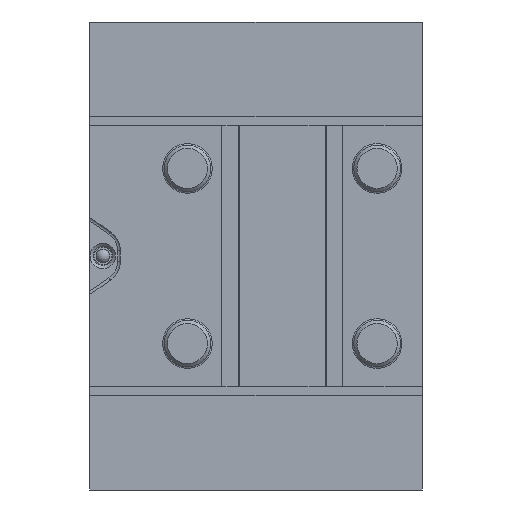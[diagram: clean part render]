
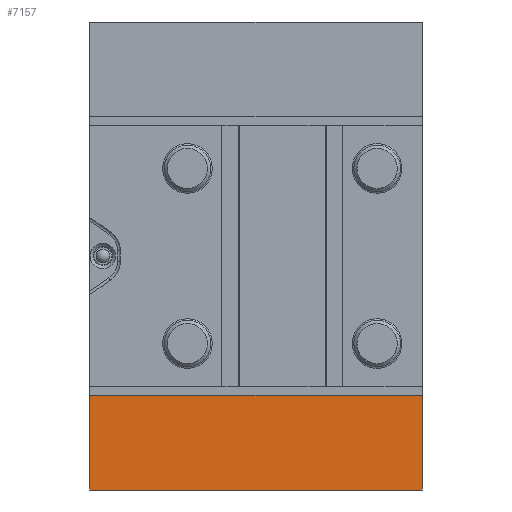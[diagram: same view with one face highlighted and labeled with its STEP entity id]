
A CAD part, front view. The second image highlights one B-rep face of the part: STEP entity #7157.
In plain terms, the highlighted planar face has unit normal (0, -1, 0).
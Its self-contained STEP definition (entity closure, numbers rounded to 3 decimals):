
#114 = VERTEX_POINT ( 'NONE', #840 ) ;
#276 = VECTOR ( 'NONE', #7020, 1000. ) ;
#328 = DIRECTION ( 'NONE',  ( 0., 0., 1. ) ) ;
#498 = FACE_OUTER_BOUND ( 'NONE', #1916, .T. ) ;
#840 = CARTESIAN_POINT ( 'NONE',  ( 48., 0., -80.2 ) ) ;
#1052 = DIRECTION ( 'NONE',  ( 0., 0., 1. ) ) ;
#1408 = ORIENTED_EDGE ( 'NONE', *, *, #9465, .T. ) ;
#1916 = EDGE_LOOP ( 'NONE', ( #1408, #11359, #10490, #11446 ) ) ;
#2040 = VERTEX_POINT ( 'NONE', #6489 ) ;
#2449 = EDGE_CURVE ( 'NONE', #6224, #114, #6042, .T. ) ;
#3109 = CARTESIAN_POINT ( 'NONE',  ( -66., 0., -80.2 ) ) ;
#3764 = CARTESIAN_POINT ( 'NONE',  ( 48., 0., -44.75 ) ) ;
#4309 = DIRECTION ( 'NONE',  ( 1., 0., 0. ) ) ;
#4429 = CARTESIAN_POINT ( 'NONE',  ( -66., 0., -47.75 ) ) ;
#4556 = CARTESIAN_POINT ( 'NONE',  ( -66., 0., -80.2 ) ) ;
#5571 = CARTESIAN_POINT ( 'NONE',  ( -66., 0., -47.75 ) ) ;
#5618 = LINE ( 'NONE', #7700, #12101 ) ;
#6042 = LINE ( 'NONE', #4556, #8173 ) ;
#6224 = VERTEX_POINT ( 'NONE', #3109 ) ;
#6489 = CARTESIAN_POINT ( 'NONE',  ( 48., 0., -47.75 ) ) ;
#7020 = DIRECTION ( 'NONE',  ( 0., 0., 1. ) ) ;
#7027 = DIRECTION ( 'NONE',  ( 0., 1., 0. ) ) ;
#7157 = ADVANCED_FACE ( 'NONE', ( #498 ), #8095, .F. ) ;
#7700 = CARTESIAN_POINT ( 'NONE',  ( -66., 0., -44.75 ) ) ;
#7774 = LINE ( 'NONE', #3764, #276 ) ;
#8095 = PLANE ( 'NONE',  #13581 ) ;
#8155 = VERTEX_POINT ( 'NONE', #4429 ) ;
#8173 = VECTOR ( 'NONE', #11095, 1000. ) ;
#8782 = VECTOR ( 'NONE', #4309, 1000. ) ;
#9465 = EDGE_CURVE ( 'NONE', #114, #2040, #7774, .T. ) ;
#9473 = LINE ( 'NONE', #5571, #8782 ) ;
#10464 = CARTESIAN_POINT ( 'NONE',  ( -66., 0., -44.75 ) ) ;
#10490 = ORIENTED_EDGE ( 'NONE', *, *, #12638, .F. ) ;
#11095 = DIRECTION ( 'NONE',  ( 1., 0., 0. ) ) ;
#11359 = ORIENTED_EDGE ( 'NONE', *, *, #12444, .F. ) ;
#11446 = ORIENTED_EDGE ( 'NONE', *, *, #2449, .T. ) ;
#12101 = VECTOR ( 'NONE', #1052, 1000. ) ;
#12444 = EDGE_CURVE ( 'NONE', #8155, #2040, #9473, .T. ) ;
#12638 = EDGE_CURVE ( 'NONE', #6224, #8155, #5618, .T. ) ;
#13581 = AXIS2_PLACEMENT_3D ( 'NONE', #10464, #7027, #328 ) ;
